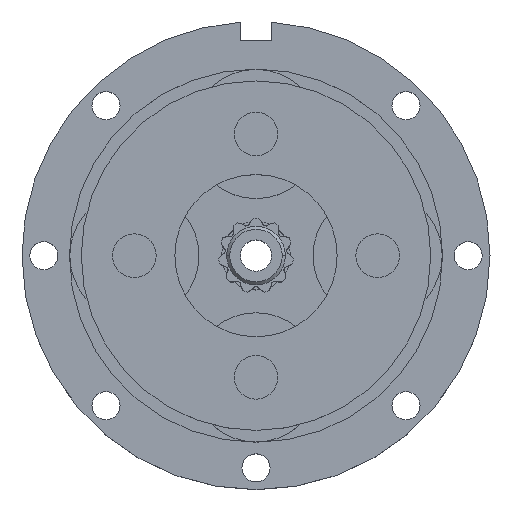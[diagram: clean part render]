
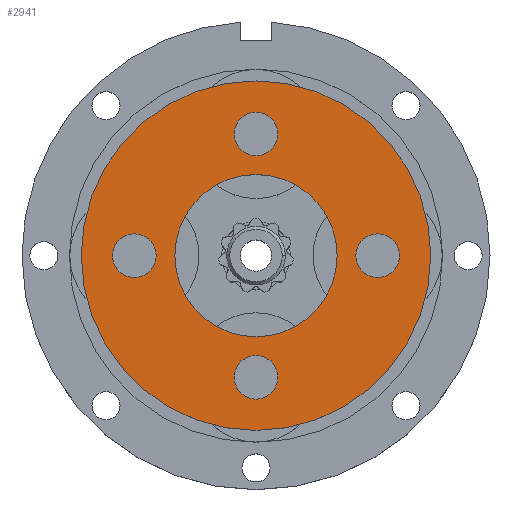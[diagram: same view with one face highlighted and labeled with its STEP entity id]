
A CAD part, top view. The second image highlights one B-rep face of the part: STEP entity #2941.
In plain terms, the highlighted planar face has unit normal (0, 0, 1).
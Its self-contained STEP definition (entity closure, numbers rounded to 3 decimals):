
#70 = DIRECTION ( 'NONE',  ( 0., 0., 1. ) ) ;
#136 = DIRECTION ( 'NONE',  ( 1., 0., 0. ) ) ;
#152 = FACE_BOUND ( 'NONE', #5402, .T. ) ;
#238 = EDGE_LOOP ( 'NONE', ( #1701, #3254 ) ) ;
#251 = CIRCLE ( 'NONE', #7250, 28. ) ;
#463 = DIRECTION ( 'NONE',  ( 0., 0., 1. ) ) ;
#768 = CARTESIAN_POINT ( 'NONE',  ( 0., 0., 8.35 ) ) ;
#1024 = VERTEX_POINT ( 'NONE', #2514 ) ;
#1031 = CARTESIAN_POINT ( 'NONE',  ( 19.5, 3.5, 8.35 ) ) ;
#1182 = CIRCLE ( 'NONE', #13735, 3.5 ) ;
#1241 = AXIS2_PLACEMENT_3D ( 'NONE', #4129, #2985, #7299 ) ;
#1370 = DIRECTION ( 'NONE',  ( 0., 0., 1. ) ) ;
#1428 = DIRECTION ( 'NONE',  ( 0., 1., 0. ) ) ;
#1678 = VERTEX_POINT ( 'NONE', #8014 ) ;
#1701 = ORIENTED_EDGE ( 'NONE', *, *, #13750, .F. ) ;
#2148 = CARTESIAN_POINT ( 'NONE',  ( 0., 19.5, 8.35 ) ) ;
#2369 = VERTEX_POINT ( 'NONE', #5346 ) ;
#2473 = CARTESIAN_POINT ( 'NONE',  ( 3.5, -19.5, 8.35 ) ) ;
#2498 = DIRECTION ( 'NONE',  ( 1., 0., 0. ) ) ;
#2514 = CARTESIAN_POINT ( 'NONE',  ( -19.5, 3.5, 8.35 ) ) ;
#2516 = CARTESIAN_POINT ( 'NONE',  ( 0., 0., 8.35 ) ) ;
#2567 = FACE_BOUND ( 'NONE', #238, .T. ) ;
#2627 = DIRECTION ( 'NONE',  ( -1., 0., 0. ) ) ;
#2785 = DIRECTION ( 'NONE',  ( 0., 1., 0. ) ) ;
#2799 = AXIS2_PLACEMENT_3D ( 'NONE', #11862, #14292, #2785 ) ;
#2895 = CIRCLE ( 'NONE', #10378, 3.5 ) ;
#2941 = ADVANCED_FACE ( 'NONE', ( #9449, #2567, #11647, #5908, #10515, #152 ), #6880, .T. ) ;
#2985 = DIRECTION ( 'NONE',  ( 0., 0., 1. ) ) ;
#3254 = ORIENTED_EDGE ( 'NONE', *, *, #5795, .F. ) ;
#3416 = DIRECTION ( 'NONE',  ( 1., 0., 0. ) ) ;
#3428 = VERTEX_POINT ( 'NONE', #10260 ) ;
#3643 = AXIS2_PLACEMENT_3D ( 'NONE', #14977, #70, #2627 ) ;
#3647 = DIRECTION ( 'NONE',  ( 0., 0., 1. ) ) ;
#3817 = VERTEX_POINT ( 'NONE', #1031 ) ;
#4029 = DIRECTION ( 'NONE',  ( 0., 0., 1. ) ) ;
#4043 = ORIENTED_EDGE ( 'NONE', *, *, #11217, .F. ) ;
#4129 = CARTESIAN_POINT ( 'NONE',  ( 0., -19.5, 8.35 ) ) ;
#4715 = AXIS2_PLACEMENT_3D ( 'NONE', #9375, #1370, #3416 ) ;
#4853 = CIRCLE ( 'NONE', #13301, 3.5 ) ;
#5010 = DIRECTION ( 'NONE',  ( 0., -1., 0. ) ) ;
#5090 = DIRECTION ( 'NONE',  ( 0., 0., 1. ) ) ;
#5166 = DIRECTION ( 'NONE',  ( 0., 0., 1. ) ) ;
#5287 = EDGE_CURVE ( 'NONE', #3817, #2369, #8412, .T. ) ;
#5289 = AXIS2_PLACEMENT_3D ( 'NONE', #14818, #11551, #136 ) ;
#5346 = CARTESIAN_POINT ( 'NONE',  ( 19.5, -3.5, 8.35 ) ) ;
#5402 = EDGE_LOOP ( 'NONE', ( #4043, #10845 ) ) ;
#5782 = EDGE_CURVE ( 'NONE', #1024, #3428, #2895, .T. ) ;
#5795 = EDGE_CURVE ( 'NONE', #7859, #7596, #9639, .T. ) ;
#5908 = FACE_BOUND ( 'NONE', #12104, .T. ) ;
#6197 = CARTESIAN_POINT ( 'NONE',  ( -28., 0., 8.35 ) ) ;
#6295 = CARTESIAN_POINT ( 'NONE',  ( 0., 19.5, 8.35 ) ) ;
#6813 = CARTESIAN_POINT ( 'NONE',  ( 19.5, 0., 8.35 ) ) ;
#6880 = PLANE ( 'NONE',  #4715 ) ;
#7250 = AXIS2_PLACEMENT_3D ( 'NONE', #2516, #5090, #9397 ) ;
#7299 = DIRECTION ( 'NONE',  ( -1., 0., 0. ) ) ;
#7574 = DIRECTION ( 'NONE',  ( 1., 0., 0. ) ) ;
#7596 = VERTEX_POINT ( 'NONE', #2473 ) ;
#7650 = DIRECTION ( 'NONE',  ( 1., 0., 0. ) ) ;
#7818 = EDGE_CURVE ( 'NONE', #10226, #14851, #1182, .T. ) ;
#7859 = VERTEX_POINT ( 'NONE', #10157 ) ;
#8014 = CARTESIAN_POINT ( 'NONE',  ( -13., 0., 8.35 ) ) ;
#8045 = ORIENTED_EDGE ( 'NONE', *, *, #5782, .F. ) ;
#8085 = DIRECTION ( 'NONE',  ( 0., 0., 1. ) ) ;
#8412 = CIRCLE ( 'NONE', #10817, 3.5 ) ;
#8569 = CARTESIAN_POINT ( 'NONE',  ( 3.5, 19.5, 8.35 ) ) ;
#8638 = ORIENTED_EDGE ( 'NONE', *, *, #7818, .F. ) ;
#9252 = ORIENTED_EDGE ( 'NONE', *, *, #5287, .F. ) ;
#9326 = CIRCLE ( 'NONE', #2799, 3.5 ) ;
#9375 = CARTESIAN_POINT ( 'NONE',  ( 0., 0., 8.35 ) ) ;
#9397 = DIRECTION ( 'NONE',  ( 1., 0., 0. ) ) ;
#9449 = FACE_BOUND ( 'NONE', #10851, .T. ) ;
#9489 = ORIENTED_EDGE ( 'NONE', *, *, #12534, .F. ) ;
#9560 = CIRCLE ( 'NONE', #14173, 28. ) ;
#9597 = ORIENTED_EDGE ( 'NONE', *, *, #9742, .F. ) ;
#9639 = CIRCLE ( 'NONE', #3643, 3.5 ) ;
#9654 = EDGE_CURVE ( 'NONE', #10915, #11027, #9560, .T. ) ;
#9742 = EDGE_CURVE ( 'NONE', #3428, #1024, #9326, .T. ) ;
#10157 = CARTESIAN_POINT ( 'NONE',  ( -3.5, -19.5, 8.35 ) ) ;
#10226 = VERTEX_POINT ( 'NONE', #8569 ) ;
#10260 = CARTESIAN_POINT ( 'NONE',  ( -19.5, -3.5, 8.35 ) ) ;
#10378 = AXIS2_PLACEMENT_3D ( 'NONE', #11774, #8085, #1428 ) ;
#10515 = FACE_OUTER_BOUND ( 'NONE', #12783, .T. ) ;
#10706 = CARTESIAN_POINT ( 'NONE',  ( -3.5, 19.5, 8.35 ) ) ;
#10817 = AXIS2_PLACEMENT_3D ( 'NONE', #6813, #11423, #12406 ) ;
#10845 = ORIENTED_EDGE ( 'NONE', *, *, #12494, .F. ) ;
#10851 = EDGE_LOOP ( 'NONE', ( #9597, #8045 ) ) ;
#10915 = VERTEX_POINT ( 'NONE', #6197 ) ;
#11027 = VERTEX_POINT ( 'NONE', #13160 ) ;
#11137 = DIRECTION ( 'NONE',  ( 1., 0., 0. ) ) ;
#11217 = EDGE_CURVE ( 'NONE', #1678, #14176, #12282, .T. ) ;
#11423 = DIRECTION ( 'NONE',  ( 0., 0., 1. ) ) ;
#11551 = DIRECTION ( 'NONE',  ( 0., 0., 1. ) ) ;
#11640 = ORIENTED_EDGE ( 'NONE', *, *, #12381, .F. ) ;
#11647 = FACE_BOUND ( 'NONE', #13242, .T. ) ;
#11774 = CARTESIAN_POINT ( 'NONE',  ( -19.5, 0., 8.35 ) ) ;
#11813 = CARTESIAN_POINT ( 'NONE',  ( 13., 0., 8.35 ) ) ;
#11862 = CARTESIAN_POINT ( 'NONE',  ( -19.5, 0., 8.35 ) ) ;
#11886 = CARTESIAN_POINT ( 'NONE',  ( 19.5, 0., 8.35 ) ) ;
#12104 = EDGE_LOOP ( 'NONE', ( #9489, #8638 ) ) ;
#12282 = CIRCLE ( 'NONE', #5289, 13. ) ;
#12297 = ORIENTED_EDGE ( 'NONE', *, *, #12392, .T. ) ;
#12381 = EDGE_CURVE ( 'NONE', #2369, #3817, #4853, .T. ) ;
#12392 = EDGE_CURVE ( 'NONE', #11027, #10915, #251, .T. ) ;
#12406 = DIRECTION ( 'NONE',  ( 0., -1., 0. ) ) ;
#12494 = EDGE_CURVE ( 'NONE', #14176, #1678, #12574, .T. ) ;
#12534 = EDGE_CURVE ( 'NONE', #14851, #10226, #14754, .T. ) ;
#12574 = CIRCLE ( 'NONE', #14267, 13. ) ;
#12783 = EDGE_LOOP ( 'NONE', ( #13038, #12297 ) ) ;
#13038 = ORIENTED_EDGE ( 'NONE', *, *, #9654, .T. ) ;
#13160 = CARTESIAN_POINT ( 'NONE',  ( 28., 0., 8.35 ) ) ;
#13242 = EDGE_LOOP ( 'NONE', ( #9252, #11640 ) ) ;
#13301 = AXIS2_PLACEMENT_3D ( 'NONE', #11886, #463, #5010 ) ;
#13543 = AXIS2_PLACEMENT_3D ( 'NONE', #6295, #5166, #7650 ) ;
#13735 = AXIS2_PLACEMENT_3D ( 'NONE', #2148, #14786, #11137 ) ;
#13750 = EDGE_CURVE ( 'NONE', #7596, #7859, #14277, .T. ) ;
#14009 = CARTESIAN_POINT ( 'NONE',  ( 0., 0., 8.35 ) ) ;
#14173 = AXIS2_PLACEMENT_3D ( 'NONE', #14009, #3647, #2498 ) ;
#14176 = VERTEX_POINT ( 'NONE', #11813 ) ;
#14267 = AXIS2_PLACEMENT_3D ( 'NONE', #768, #4029, #7574 ) ;
#14277 = CIRCLE ( 'NONE', #1241, 3.5 ) ;
#14292 = DIRECTION ( 'NONE',  ( 0., 0., 1. ) ) ;
#14754 = CIRCLE ( 'NONE', #13543, 3.5 ) ;
#14786 = DIRECTION ( 'NONE',  ( 0., 0., 1. ) ) ;
#14818 = CARTESIAN_POINT ( 'NONE',  ( 0., 0., 8.35 ) ) ;
#14851 = VERTEX_POINT ( 'NONE', #10706 ) ;
#14977 = CARTESIAN_POINT ( 'NONE',  ( 0., -19.5, 8.35 ) ) ;
